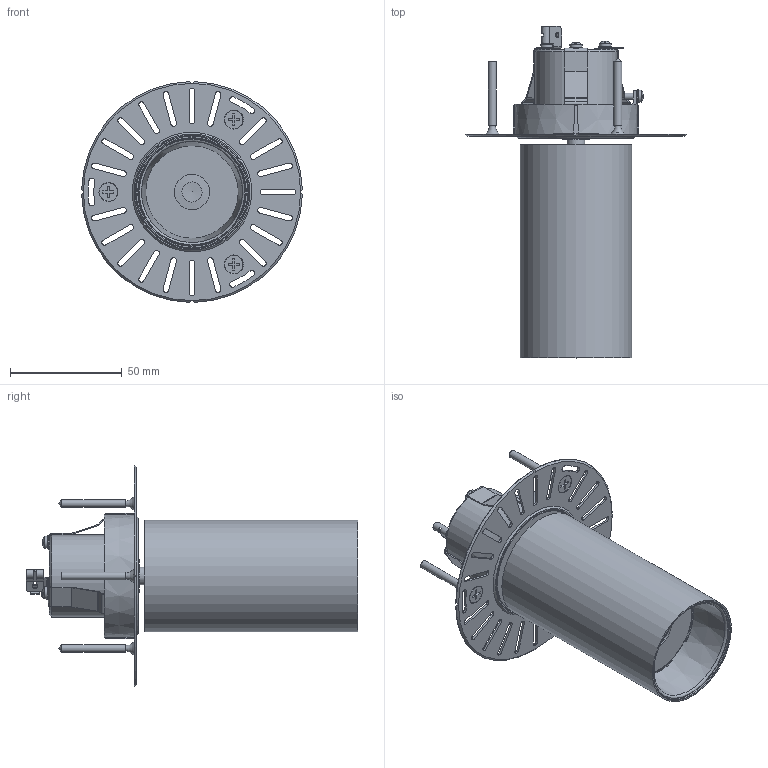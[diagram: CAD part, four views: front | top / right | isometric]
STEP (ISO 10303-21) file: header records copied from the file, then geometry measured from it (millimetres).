
FILE_DESCRIPTION(/* description */ (''),/* implementation_level */ '2;1');
FILE_NAME(/* name */ 'S:\UFFICIO TECNICO 2019\PRODOTTI ROTALIANA\SOUVLAKI\CONFIGURATORE\FILES X CONFIGURATORE\ipt INVENTOR\1SVH6.stp',/* time_stamp */ '2024-03-14T08:58:46+01:00',/* author */ ('mtesta'),/* organization */ (''),/* preprocessor_version */ 'ST-DEVELOPER v18.1',/* originating_system */ 'Autodesk Inventor 2021',/* authorisation */ '');
FILE_SCHEMA (('AUTOMOTIVE_DESIGN { 1 0 10303 214 3 1 1 }'));
Length unit declared in the file: millimetre
Products named in the file (1): 1SVH6
Bounding box: 98.98 x 148.8 x 98.98 mm (x, y, z)
Volume: 118572.9 mm3; surface area: 91094.6 mm2
Topology: 9 solids, 9 shells, 1816 faces, 4922 edges, 3120 vertices
Faces by surface type: plane 999, cylinder 387, bspline 248, cone 91, torus 59, sphere 32
Full cylindrical faces by diameter (mm): 1.567 x3, 1.7 x4, 2.5 x1, 2.6 x3, 2.9 x5, 3 x27, 3.1 x2, 3.2 x2, 3.4 x3, 3.5 x3, 4 x4, 5.5 x4, 6 x3, 6.5 x2, 8 x2, 8.2 x3, 9 x1, 15.853 x1, 16.5 x1, 17 x1, 19.4 x1, 20 x1, 25 x1, 36.8 x1, 42 x1, 42.026 x1, 46 x1, 46.5 x1, 47.3 x1, 47.6 x1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
Entity records: 72582 total; most frequent: CARTESIAN_POINT 25372, ORIENTED_EDGE 9752, DIRECTION 9063, EDGE_CURVE 4876, AXIS2_PLACEMENT_3D 3195, VERTEX_POINT 3118, LINE 2673, VECTOR 2673
